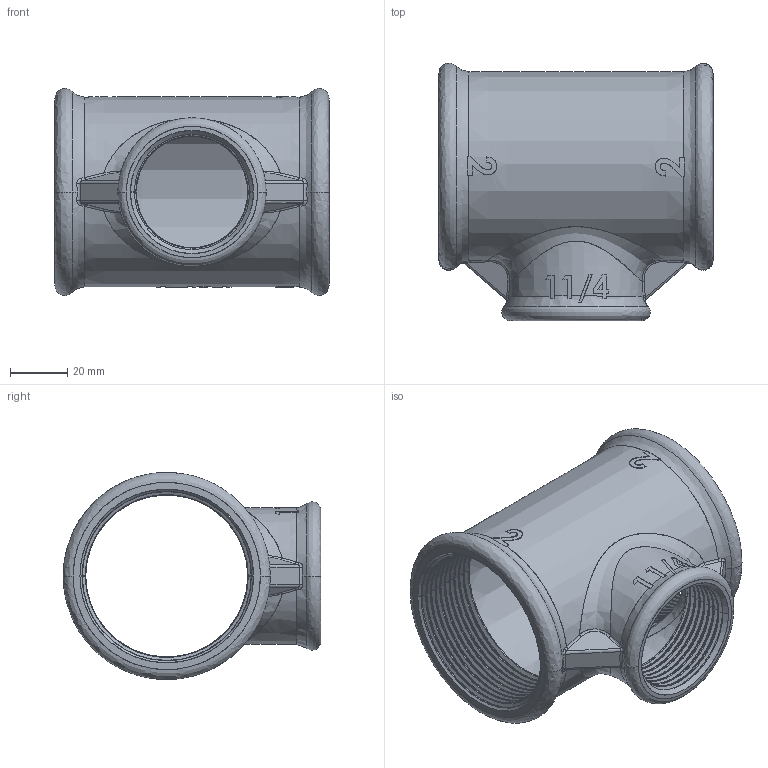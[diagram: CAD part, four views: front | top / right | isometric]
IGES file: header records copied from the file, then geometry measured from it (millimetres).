
Start section: SolidWorks IGES file using analytic representation for surfaces
Global section: file name: C:\Users\Joel Rosa\Desktop\Tubulação\12-45-XXX\12-45-046.IGS; native system: SolidWorks 2011; preprocessor: SolidWorks 2011; author: Joel Rosa; date: 121212.234316; units: millimetre
Bounding box: 96 x 90.3 x 72.58 mm (x, y, z)
Surface area: 52647.9 mm2 (no closed solid volume)
Topology: 0 solids, 0 shells, 499 faces, 4572 edges, 4572 vertices
Faces by surface type: bspline 351, revolution 148
